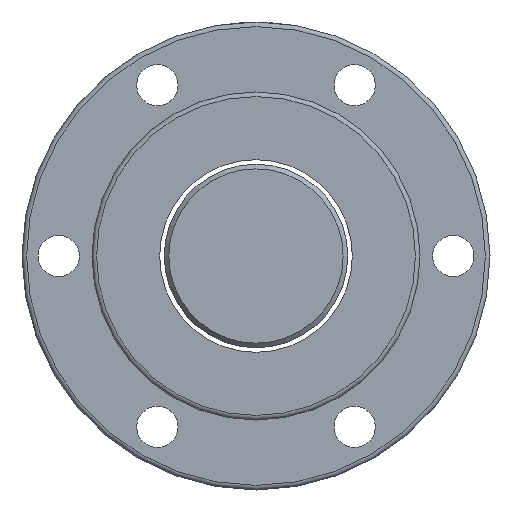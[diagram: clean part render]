
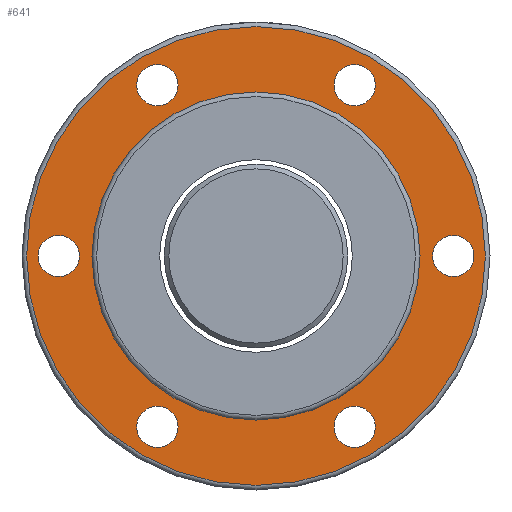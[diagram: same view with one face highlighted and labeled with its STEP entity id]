
A CAD part, left-side view. The second image highlights one B-rep face of the part: STEP entity #641.
In plain terms, the highlighted planar face has unit normal (-1, 0, 0).
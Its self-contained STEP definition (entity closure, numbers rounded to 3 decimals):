
#102=PLANE('',#763);
#190=ORIENTED_EDGE('',*,*,#278,.T.);
#191=ORIENTED_EDGE('',*,*,#277,.F.);
#192=ORIENTED_EDGE('',*,*,#272,.T.);
#193=ORIENTED_EDGE('',*,*,#268,.T.);
#194=ORIENTED_EDGE('',*,*,#264,.T.);
#195=ORIENTED_EDGE('',*,*,#260,.T.);
#196=ORIENTED_EDGE('',*,*,#256,.T.);
#197=ORIENTED_EDGE('',*,*,#252,.T.);
#252=EDGE_CURVE('',#313,#313,#365,.T.);
#256=EDGE_CURVE('',#317,#317,#369,.T.);
#260=EDGE_CURVE('',#321,#321,#373,.T.);
#264=EDGE_CURVE('',#325,#325,#377,.T.);
#268=EDGE_CURVE('',#329,#329,#381,.T.);
#272=EDGE_CURVE('',#333,#333,#385,.T.);
#277=EDGE_CURVE('',#338,#338,#390,.T.);
#278=EDGE_CURVE('',#339,#339,#391,.T.);
#313=VERTEX_POINT('',#1067);
#317=VERTEX_POINT('',#1078);
#321=VERTEX_POINT('',#1089);
#325=VERTEX_POINT('',#1100);
#329=VERTEX_POINT('',#1111);
#333=VERTEX_POINT('',#1122);
#338=VERTEX_POINT('',#1137);
#339=VERTEX_POINT('',#1140);
#365=CIRCLE('',#717,9.);
#369=CIRCLE('',#724,9.);
#373=CIRCLE('',#731,9.);
#377=CIRCLE('',#738,9.);
#381=CIRCLE('',#745,9.);
#385=CIRCLE('',#752,9.);
#390=CIRCLE('',#762,100.);
#391=CIRCLE('',#764,71.5);
#475=EDGE_LOOP('',(#190));
#476=EDGE_LOOP('',(#191));
#477=EDGE_LOOP('',(#192));
#478=EDGE_LOOP('',(#193));
#479=EDGE_LOOP('',(#194));
#480=EDGE_LOOP('',(#195));
#481=EDGE_LOOP('',(#196));
#482=EDGE_LOOP('',(#197));
#578=FACE_BOUND('',#475,.T.);
#579=FACE_BOUND('',#476,.T.);
#580=FACE_BOUND('',#477,.T.);
#581=FACE_BOUND('',#478,.T.);
#582=FACE_BOUND('',#479,.T.);
#583=FACE_BOUND('',#480,.T.);
#584=FACE_BOUND('',#481,.T.);
#585=FACE_BOUND('',#482,.T.);
#641=ADVANCED_FACE('',(#578,#579,#580,#581,#582,#583,#584,#585),#102,.F.);
#717=AXIS2_PLACEMENT_3D('',#1066,#858,#859);
#724=AXIS2_PLACEMENT_3D('',#1077,#872,#873);
#731=AXIS2_PLACEMENT_3D('',#1088,#886,#887);
#738=AXIS2_PLACEMENT_3D('',#1099,#900,#901);
#745=AXIS2_PLACEMENT_3D('',#1110,#914,#915);
#752=AXIS2_PLACEMENT_3D('',#1121,#928,#929);
#762=AXIS2_PLACEMENT_3D('',#1136,#948,#949);
#763=AXIS2_PLACEMENT_3D('',#1138,#950,#951);
#764=AXIS2_PLACEMENT_3D('',#1139,#952,#953);
#858=DIRECTION('',(1.,0.,0.));
#859=DIRECTION('',(0.,0.,-1.));
#872=DIRECTION('',(1.,0.,0.));
#873=DIRECTION('',(0.,0.,-1.));
#886=DIRECTION('',(1.,0.,0.));
#887=DIRECTION('',(0.,0.,-1.));
#900=DIRECTION('',(1.,0.,0.));
#901=DIRECTION('',(0.,0.,-1.));
#914=DIRECTION('',(1.,0.,0.));
#915=DIRECTION('',(0.,0.,-1.));
#928=DIRECTION('',(1.,0.,0.));
#929=DIRECTION('',(0.,0.,-1.));
#948=DIRECTION('',(1.,0.,0.));
#949=DIRECTION('',(0.,0.,-1.));
#950=DIRECTION('',(1.,0.,0.));
#951=DIRECTION('',(0.,0.,-1.));
#952=DIRECTION('',(1.,0.,0.));
#953=DIRECTION('',(0.,0.,-1.));
#1066=CARTESIAN_POINT('',(-43.,86.,0.));
#1067=CARTESIAN_POINT('',(-43.,86.,-9.));
#1077=CARTESIAN_POINT('',(-43.,-86.,0.));
#1078=CARTESIAN_POINT('',(-43.,-86.,-9.));
#1088=CARTESIAN_POINT('',(-43.,43.,-74.478));
#1089=CARTESIAN_POINT('',(-43.,43.,-83.478));
#1099=CARTESIAN_POINT('',(-43.,-43.,-74.478));
#1100=CARTESIAN_POINT('',(-43.,-43.,-83.478));
#1110=CARTESIAN_POINT('',(-43.,-43.,74.478));
#1111=CARTESIAN_POINT('',(-43.,-43.,65.478));
#1121=CARTESIAN_POINT('',(-43.,43.,74.478));
#1122=CARTESIAN_POINT('',(-43.,43.,65.478));
#1136=CARTESIAN_POINT('',(-43.,0.,0.));
#1137=CARTESIAN_POINT('',(-43.,0.,-100.));
#1138=CARTESIAN_POINT('',(-43.,85.75,0.));
#1139=CARTESIAN_POINT('',(-43.,0.,0.));
#1140=CARTESIAN_POINT('',(-43.,0.,-71.5));
